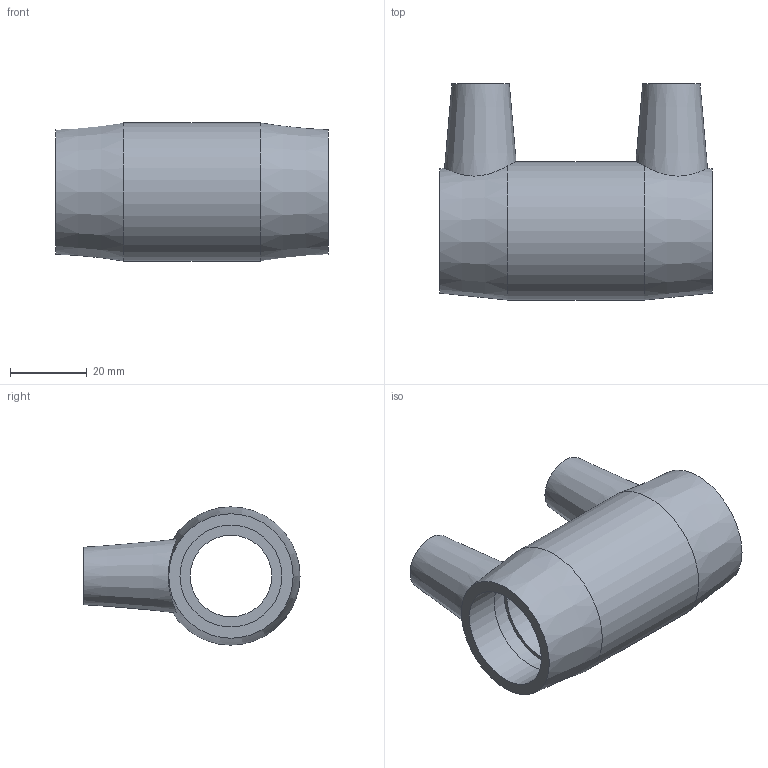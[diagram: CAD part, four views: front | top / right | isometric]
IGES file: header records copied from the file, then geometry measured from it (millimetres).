
Global section: file name: 5901B004007.ipt; native system: Autodesk Inventor 2019; preprocessor: unknown; author: KIM; date: 20210830.100906; units: inch
Bounding box: 71.12 x 56.39 x 36.07 mm (x, y, z)
Volume: 37516.8 mm3; surface area: 18340.2 mm2
Topology: 1 solids, 1 shells, 30 faces, 66 edges, 46 vertices
Faces by surface type: plane 12, revolution 11, cone 4, cylinder 3
Full cylindrical faces by diameter (mm): 4 x2, 36.068 x1
